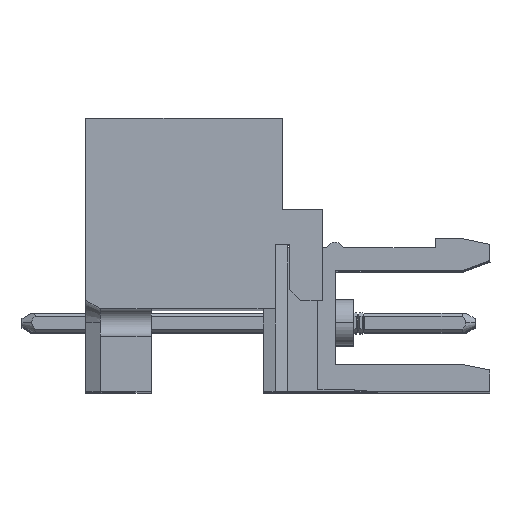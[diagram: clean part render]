
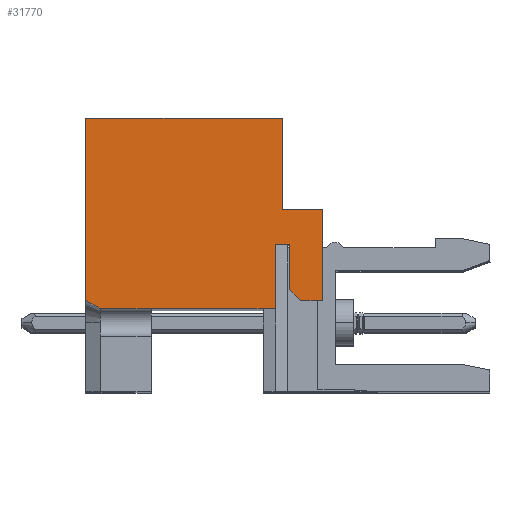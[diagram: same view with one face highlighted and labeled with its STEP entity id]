
A CAD part, top view. The second image highlights one B-rep face of the part: STEP entity #31770.
In plain terms, the highlighted planar face has unit normal (0, 0, 1).
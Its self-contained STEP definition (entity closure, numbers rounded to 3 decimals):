
#3392 = CARTESIAN_POINT ( 'NONE',  ( -4.893, -5.185, 0. ) ) ;
#3393 = DIRECTION ( 'NONE',  ( -0.866, 0.5, 0. ) ) ;
#3394 = VECTOR ( 'NONE', #3393, 1000. ) ;
#3395 = CARTESIAN_POINT ( 'NONE',  ( -4.493, -5.416, 0. ) ) ;
#3396 = LINE ( 'NONE', #3395, #3394 ) ;
#3398 = CARTESIAN_POINT ( 'NONE',  ( -4.093, -5.647, 0. ) ) ;
#28321 = VERTEX_POINT ( 'NONE', #61732 ) ;
#28323 = EDGE_CURVE ( 'NONE', #28398, #28321, #61727, .T. ) ;
#28361 = VERTEX_POINT ( 'NONE', #61853 ) ;
#28369 = VERTEX_POINT ( 'NONE', #61981 ) ;
#28372 = EDGE_CURVE ( 'NONE', #28373, #36326, #61976, .T. ) ;
#28373 = VERTEX_POINT ( 'NONE', #61969 ) ;
#28379 = EDGE_CURVE ( 'NONE', #36323, #28380, #61941, .T. ) ;
#28380 = VERTEX_POINT ( 'NONE', #61930 ) ;
#28398 = VERTEX_POINT ( 'NONE', #62046 ) ;
#28420 = EDGE_CURVE ( 'NONE', #28440, #28398, #62118, .T. ) ;
#28432 = EDGE_CURVE ( 'NONE', #28361, #28369, #62221, .T. ) ;
#28440 = VERTEX_POINT ( 'NONE', #62180 ) ;
#28442 = EDGE_CURVE ( 'NONE', #28369, #28440, #62175, .T. ) ;
#31749 = ORIENTED_EDGE ( 'NONE', *, *, #31769, .T. ) ;
#31750 = ORIENTED_EDGE ( 'NONE', *, *, #31751, .T. ) ;
#31751 = EDGE_CURVE ( 'NONE', #31767, #31752, #68625, .T. ) ;
#31752 = VERTEX_POINT ( 'NONE', #68621 ) ;
#31753 = ORIENTED_EDGE ( 'NONE', *, *, #31754, .T. ) ;
#31754 = EDGE_CURVE ( 'NONE', #31752, #31755, #68620, .T. ) ;
#31755 = VERTEX_POINT ( 'NONE', #68616 ) ;
#31756 = ORIENTED_EDGE ( 'NONE', *, *, #31757, .T. ) ;
#31757 = EDGE_CURVE ( 'NONE', #31755, #31758, #68615, .T. ) ;
#31758 = VERTEX_POINT ( 'NONE', #68675 ) ;
#31759 = ORIENTED_EDGE ( 'NONE', *, *, #31760, .T. ) ;
#31760 = EDGE_CURVE ( 'NONE', #31758, #28373, #68674, .T. ) ;
#31761 = ORIENTED_EDGE ( 'NONE', *, *, #28372, .T. ) ;
#31767 = VERTEX_POINT ( 'NONE', #68666 ) ;
#31769 = EDGE_CURVE ( 'NONE', #28321, #31767, #68665, .T. ) ;
#31770 = ADVANCED_FACE ( 'NONE', ( #68661 ), #68660, .T. ) ;
#31771 = EDGE_LOOP ( 'NONE', ( #31772, #31774, #31775, #31749, #31750, #31753, #31756, #31759, #31761, #31813, #31815, #31817, #31822 ) ) ;
#31772 = ORIENTED_EDGE ( 'NONE', *, *, #28442, .T. ) ;
#31774 = ORIENTED_EDGE ( 'NONE', *, *, #28420, .T. ) ;
#31775 = ORIENTED_EDGE ( 'NONE', *, *, #28323, .T. ) ;
#31813 = ORIENTED_EDGE ( 'NONE', *, *, #36325, .F. ) ;
#31815 = ORIENTED_EDGE ( 'NONE', *, *, #28379, .T. ) ;
#31817 = ORIENTED_EDGE ( 'NONE', *, *, #31819, .T. ) ;
#31819 = EDGE_CURVE ( 'NONE', #28380, #28361, #68735, .T. ) ;
#31822 = ORIENTED_EDGE ( 'NONE', *, *, #28432, .T. ) ;
#36323 = VERTEX_POINT ( 'NONE', #3398 ) ;
#36325 = EDGE_CURVE ( 'NONE', #36323, #36326, #3396, .T. ) ;
#36326 = VERTEX_POINT ( 'NONE', #3392 ) ;
#61722 = DIRECTION ( 'NONE',  ( 0.707, -0.707, 0. ) ) ;
#61724 = VECTOR ( 'NONE', #61722, 1000. ) ;
#61725 = CARTESIAN_POINT ( 'NONE',  ( 6.307, -4.597, 0. ) ) ;
#61727 = LINE ( 'NONE', #61725, #61724 ) ;
#61732 = CARTESIAN_POINT ( 'NONE',  ( 6.907, -5.197, 0. ) ) ;
#61853 = CARTESIAN_POINT ( 'NONE',  ( 5.507, -5.647, 0. ) ) ;
#61930 = CARTESIAN_POINT ( 'NONE',  ( -1.293, -5.647, 0. ) ) ;
#61936 = DIRECTION ( 'NONE',  ( 1., 0., 0. ) ) ;
#61937 = VECTOR ( 'NONE', #61936, 1000. ) ;
#61939 = CARTESIAN_POINT ( 'NONE',  ( 1.607, -5.647, 0. ) ) ;
#61941 = LINE ( 'NONE', #61939, #61937 ) ;
#61969 = CARTESIAN_POINT ( 'NONE',  ( -4.893, 4.803, 0. ) ) ;
#61971 = DIRECTION ( 'NONE',  ( 0., -1., 0. ) ) ;
#61973 = VECTOR ( 'NONE', #61971, 1000. ) ;
#61975 = CARTESIAN_POINT ( 'NONE',  ( -4.893, -0.422, 0. ) ) ;
#61976 = LINE ( 'NONE', #61975, #61973 ) ;
#61981 = CARTESIAN_POINT ( 'NONE',  ( 5.507, -2.097, 0. ) ) ;
#62046 = CARTESIAN_POINT ( 'NONE',  ( 6.307, -4.597, 0. ) ) ;
#62114 = DIRECTION ( 'NONE',  ( 0., -1., 0. ) ) ;
#62115 = VECTOR ( 'NONE', #62114, 1000. ) ;
#62117 = CARTESIAN_POINT ( 'NONE',  ( 6.307, -0.422, 0. ) ) ;
#62118 = LINE ( 'NONE', #62117, #62115 ) ;
#62170 = DIRECTION ( 'NONE',  ( 1., 0., 0. ) ) ;
#62171 = VECTOR ( 'NONE', #62170, 1000. ) ;
#62173 = CARTESIAN_POINT ( 'NONE',  ( 1.607, -2.097, 0. ) ) ;
#62175 = LINE ( 'NONE', #62173, #62171 ) ;
#62180 = CARTESIAN_POINT ( 'NONE',  ( 6.307, -2.097, 0. ) ) ;
#62216 = DIRECTION ( 'NONE',  ( 0., 1., 0. ) ) ;
#62218 = VECTOR ( 'NONE', #62216, 1000. ) ;
#62220 = CARTESIAN_POINT ( 'NONE',  ( 5.507, -0.422, 0. ) ) ;
#62221 = LINE ( 'NONE', #62220, #62218 ) ;
#68614 = CARTESIAN_POINT ( 'NONE',  ( 5.907, 2.303, 0. ) ) ;
#68615 = LINE ( 'NONE', #68614, #68677 ) ;
#68616 = CARTESIAN_POINT ( 'NONE',  ( 5.907, -0.197, 0. ) ) ;
#68617 = DIRECTION ( 'NONE',  ( -1., 0., 0. ) ) ;
#68618 = VECTOR ( 'NONE', #68617, 1000. ) ;
#68619 = CARTESIAN_POINT ( 'NONE',  ( 7.007, -0.197, 0. ) ) ;
#68620 = LINE ( 'NONE', #68619, #68618 ) ;
#68621 = CARTESIAN_POINT ( 'NONE',  ( 8.107, -0.197, 0. ) ) ;
#68622 = DIRECTION ( 'NONE',  ( 0., 1., 0. ) ) ;
#68623 = VECTOR ( 'NONE', #68622, 1000. ) ;
#68624 = CARTESIAN_POINT ( 'NONE',  ( 8.107, -2.697, 0. ) ) ;
#68625 = LINE ( 'NONE', #68624, #68623 ) ;
#68656 = DIRECTION ( 'NONE',  ( 1., 0., 0. ) ) ;
#68657 = DIRECTION ( 'NONE',  ( 0., 0., 1. ) ) ;
#68658 = CARTESIAN_POINT ( 'NONE',  ( -4.893, -5.647, 0. ) ) ;
#68659 = AXIS2_PLACEMENT_3D ( 'NONE', #68658, #68657, #68656 ) ;
#68660 = PLANE ( 'NONE',  #68659 ) ;
#68661 = FACE_OUTER_BOUND ( 'NONE', #31771, .T. ) ;
#68662 = DIRECTION ( 'NONE',  ( 1., 0., 0. ) ) ;
#68663 = VECTOR ( 'NONE', #68662, 1000. ) ;
#68664 = CARTESIAN_POINT ( 'NONE',  ( 1.607, -5.197, 0. ) ) ;
#68665 = LINE ( 'NONE', #68664, #68663 ) ;
#68666 = CARTESIAN_POINT ( 'NONE',  ( 8.107, -5.197, 0. ) ) ;
#68671 = DIRECTION ( 'NONE',  ( -1., 0., 0. ) ) ;
#68672 = VECTOR ( 'NONE', #68671, 1000. ) ;
#68673 = CARTESIAN_POINT ( 'NONE',  ( 0.507, 4.803, 0. ) ) ;
#68674 = LINE ( 'NONE', #68673, #68672 ) ;
#68675 = CARTESIAN_POINT ( 'NONE',  ( 5.907, 4.803, 0. ) ) ;
#68676 = DIRECTION ( 'NONE',  ( 0., 1., 0. ) ) ;
#68677 = VECTOR ( 'NONE', #68676, 1000. ) ;
#68732 = DIRECTION ( 'NONE',  ( 1., 0., 0. ) ) ;
#68733 = VECTOR ( 'NONE', #68732, 1000. ) ;
#68734 = CARTESIAN_POINT ( 'NONE',  ( 2.107, -5.647, 0. ) ) ;
#68735 = LINE ( 'NONE', #68734, #68733 ) ;
